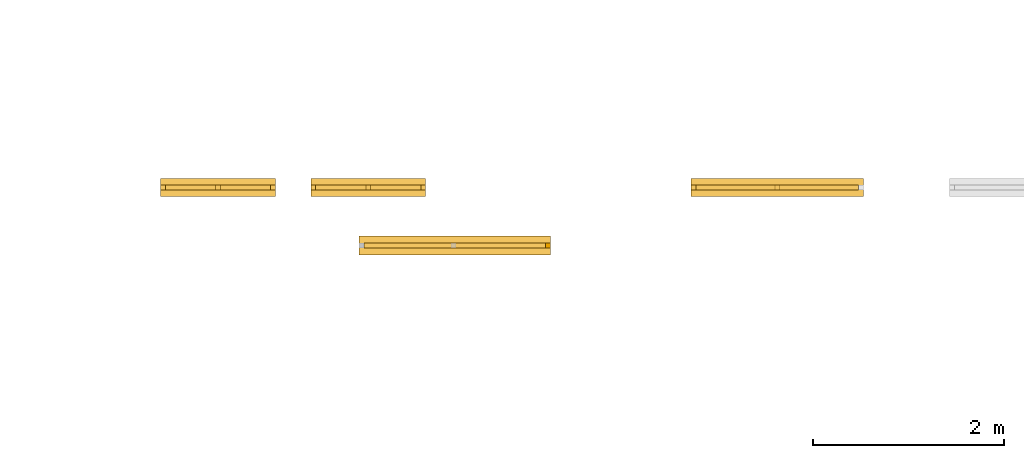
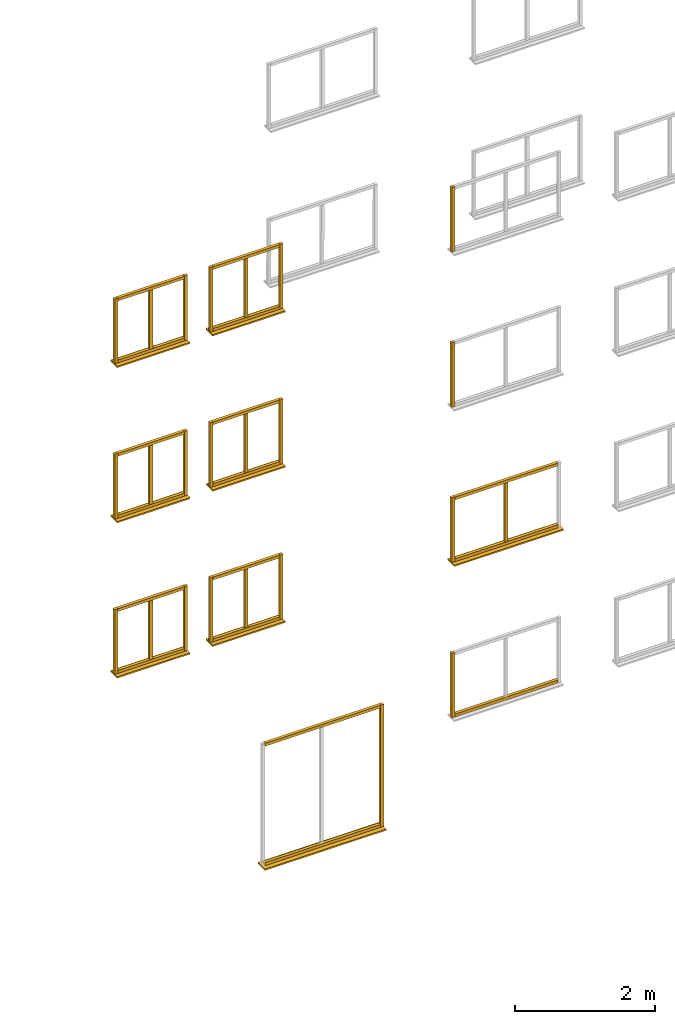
# Not in any storey, part 3 of 22: 49 windows.
"""IFC2X3 model written with IfcOpenShell, lengths in metres."""

from ifc_helpers import new_model, si_unit, frame, origin, place, context, project, faceted_brep, element, save


model = new_model("IFC2X3")

# Units and contexts
model_context = context("Model", 3, precision=1e-06, world=origin())
ifc_project = project(units=[si_unit("LENGTHUNIT", "METRE"), si_unit("PLANEANGLEUNIT", "RADIAN")], contexts=[model_context])

# Windows
placement = place(None, origin())
window_1_placement = place(placement, frame((15.019999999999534, -0.098337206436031, 3.775), z_axis=(0.0, 0.0, 1.0), x_axis=(1.0, 0.0, 0.0)))
element("IfcWindow", 1, at=window_1_placement, Name="verticalBar", context=model_context, shape_type="Brep", body=[
    faceted_brep([(0.0, 0.05, 0.0), (0.05, 0.05, 0.0), (0.05, 0.0, 0.0), (0.0, 0.0, 0.0), (0.05, 0.0, 1.025), (0.05, 0.05, 1.025), (0.0, 0.05, 1.025), (0.0, 0.0, 1.025), (0.0, 0.05, 0.0), (0.0, 0.0, 0.0), (0.0, 0.0, 1.025), (0.0, 0.05, 1.025), (0.05, 0.05, 0.0), (0.0, 0.05, 0.0), (0.0, 0.05, 1.025), (0.05, 0.05, 1.025), (0.05, 0.0, 0.0), (0.05, 0.05, 0.0), (0.05, 0.05, 1.025), (0.05, 0.0, 1.025), (0.0, 0.0, 0.0), (0.05, 0.0, 0.0), (0.05, 0.0, 1.025), (0.0, 0.0, 1.025)], [[[0, 1, 2, 3]], [[4, 5, 6, 7]], [[8, 9, 10, 11]], [[12, 13, 14, 15]], [[16, 17, 18, 19]], [[20, 21, 22, 23]]]),
])
window_2_placement = place(placement, frame((8.64999999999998, -0.098422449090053, 3.725000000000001), z_axis=(0.0, 0.0, 1.0), x_axis=(1.0, 0.0, 0.0)))
element("IfcWindow", 2, at=window_2_placement, Name="bottomFrame", context=model_context, shape_type="Brep", body=[
    faceted_brep([(0.0, 0.05, 0.0), (1.1, 0.05, 0.0), (1.1, 0.0, 0.0), (0.0, 0.0, 0.0), (1.1, 0.0, 0.05), (1.1, 0.05, 0.05), (0.0, 0.05, 0.05), (0.0, 0.0, 0.05), (0.0, 0.05, 0.0), (0.0, 0.0, 0.0), (0.0, 0.0, 0.05), (0.0, 0.05, 0.05), (1.1, 0.05, 0.0), (0.0, 0.05, 0.0), (0.0, 0.05, 0.05), (1.1, 0.05, 0.05), (1.1, 0.0, 0.0), (1.1, 0.05, 0.0), (1.1, 0.05, 0.05), (1.1, 0.0, 0.05), (0.0, 0.0, 0.0), (1.1, 0.0, 0.0), (1.1, 0.0, 0.05), (0.0, 0.0, 0.05)], [[[0, 1, 2, 3]], [[4, 5, 6, 7]], [[8, 9, 10, 11]], [[12, 13, 14, 15]], [[16, 17, 18, 19]], [[20, 21, 22, 23]]]),
])
window_3_placement = place(placement, frame((14.194999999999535, -0.098337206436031, 1.025), z_axis=(0.0, 0.0, 1.0), x_axis=(1.0, 0.0, 0.0)))
element("IfcWindow", 3, at=window_3_placement, Name="bottomFrame", context=model_context, shape_type="Brep", body=[
    faceted_brep([(0.0, 0.05, 0.0), (1.7, 0.05, 0.0), (1.7, 0.0, 0.0), (0.0, 0.0, 0.0), (1.7, 0.0, 0.05), (1.7, 0.05, 0.05), (0.0, 0.05, 0.05), (0.0, 0.0, 0.05), (0.0, 0.05, 0.0), (0.0, 0.0, 0.0), (0.0, 0.0, 0.05), (0.0, 0.05, 0.05), (1.7, 0.05, 0.0), (0.0, 0.05, 0.0), (0.0, 0.05, 0.05), (1.7, 0.05, 0.05), (1.7, 0.0, 0.0), (1.7, 0.05, 0.0), (1.7, 0.05, 0.05), (1.7, 0.0, 0.05), (0.0, 0.0, 0.0), (1.7, 0.0, 0.0), (1.7, 0.0, 0.05), (0.0, 0.0, 0.05)], [[[0, 1, 2, 3]], [[4, 5, 6, 7]], [[8, 9, 10, 11]], [[12, 13, 14, 15]], [[16, 17, 18, 19]], [[20, 21, 22, 23]]]),
])
window_4_placement = place(placement, frame((8.64999999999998, -0.098422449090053, 10.200000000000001), z_axis=(0.0, 0.0, 1.0), x_axis=(1.0, 0.0, 0.0)))
element("IfcWindow", 4, at=window_4_placement, Name="topFrame", context=model_context, shape_type="Brep", body=[
    faceted_brep([(0.0, 0.05, 0.0), (1.1, 0.05, 0.0), (1.1, 0.0, 0.0), (0.0, 0.0, 0.0), (1.1, 0.0, 0.05), (1.1, 0.05, 0.05), (0.0, 0.05, 0.05), (0.0, 0.0, 0.05), (0.0, 0.05, 0.0), (0.0, 0.0, 0.0), (0.0, 0.0, 0.05), (0.0, 0.05, 0.05), (1.1, 0.05, 0.0), (0.0, 0.05, 0.0), (0.0, 0.05, 0.05), (1.1, 0.05, 0.05), (1.1, 0.0, 0.0), (1.1, 0.05, 0.0), (1.1, 0.05, 0.05), (1.1, 0.0, 0.05), (0.0, 0.0, 0.0), (1.1, 0.0, 0.0), (1.1, 0.0, 0.05), (0.0, 0.0, 0.05)], [[[0, 1, 2, 3]], [[4, 5, 6, 7]], [[8, 9, 10, 11]], [[12, 13, 14, 15]], [[16, 17, 18, 19]], [[20, 21, 22, 23]]]),
])
window_5_placement = place(placement, frame((9.74999999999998, -0.098422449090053, 9.125000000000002), z_axis=(0.0, 0.0, 1.0), x_axis=(1.0, 0.0, 0.0)))
element("IfcWindow", 5, at=window_5_placement, Name="rightFrame", context=model_context, shape_type="Brep", body=[
    faceted_brep([(0.0, 0.05, 0.0), (0.05, 0.05, 0.0), (0.05, 0.0, 0.0), (0.0, 0.0, 0.0), (0.05, 0.0, 1.125), (0.05, 0.05, 1.125), (0.0, 0.05, 1.125), (0.0, 0.0, 1.125), (0.0, 0.05, 0.0), (0.0, 0.0, 0.0), (0.0, 0.0, 1.125), (0.0, 0.05, 1.125), (0.05, 0.05, 0.0), (0.0, 0.05, 0.0), (0.0, 0.05, 1.125), (0.05, 0.05, 1.125), (0.05, 0.0, 0.0), (0.05, 0.05, 0.0), (0.05, 0.05, 1.125), (0.05, 0.0, 1.125), (0.0, 0.0, 0.0), (0.05, 0.0, 0.0), (0.05, 0.0, 1.125), (0.0, 0.0, 1.125)], [[[0, 1, 2, 3]], [[4, 5, 6, 7]], [[8, 9, 10, 11]], [[12, 13, 14, 15]], [[16, 17, 18, 19]], [[20, 21, 22, 23]]]),
])
window_6_placement = place(placement, frame((9.17499999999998, -0.098422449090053, 9.175), z_axis=(0.0, 0.0, 1.0), x_axis=(1.0, 0.0, 0.0)))
element("IfcWindow", 6, at=window_6_placement, Name="verticalBar", context=model_context, shape_type="Brep", body=[
    faceted_brep([(0.0, 0.05, 0.0), (0.05, 0.05, 0.0), (0.05, 0.0, 0.0), (0.0, 0.0, 0.0), (0.05, 0.0, 1.025), (0.05, 0.05, 1.025), (0.0, 0.05, 1.025), (0.0, 0.0, 1.025), (0.0, 0.05, 0.0), (0.0, 0.0, 0.0), (0.0, 0.0, 1.025), (0.0, 0.05, 1.025), (0.05, 0.05, 0.0), (0.0, 0.05, 0.0), (0.0, 0.05, 1.025), (0.05, 0.05, 1.025), (0.05, 0.0, 0.0), (0.05, 0.05, 0.0), (0.05, 0.05, 1.025), (0.05, 0.0, 1.025), (0.0, 0.0, 0.0), (0.05, 0.0, 0.0), (0.05, 0.0, 1.025), (0.0, 0.0, 1.025)], [[[0, 1, 2, 3]], [[4, 5, 6, 7]], [[8, 9, 10, 11]], [[12, 13, 14, 15]], [[16, 17, 18, 19]], [[20, 21, 22, 23]]]),
])
window_7_placement = place(placement, frame((8.64999999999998, -0.098422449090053, 9.125000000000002), z_axis=(0.0, 0.0, 1.0), x_axis=(1.0, 0.0, 0.0)))
element("IfcWindow", 7, at=window_7_placement, Name="bottomFrame", context=model_context, shape_type="Brep", body=[
    faceted_brep([(0.0, 0.05, 0.0), (1.1, 0.05, 0.0), (1.1, 0.0, 0.0), (0.0, 0.0, 0.0), (1.1, 0.0, 0.05), (1.1, 0.05, 0.05), (0.0, 0.05, 0.05), (0.0, 0.0, 0.05), (0.0, 0.05, 0.0), (0.0, 0.0, 0.0), (0.0, 0.0, 0.05), (0.0, 0.05, 0.05), (1.1, 0.05, 0.0), (0.0, 0.05, 0.0), (0.0, 0.05, 0.05), (1.1, 0.05, 0.05), (1.1, 0.0, 0.0), (1.1, 0.05, 0.0), (1.1, 0.05, 0.05), (1.1, 0.0, 0.05), (0.0, 0.0, 0.0), (1.1, 0.0, 0.0), (1.1, 0.0, 0.05), (0.0, 0.0, 0.05)], [[[0, 1, 2, 3]], [[4, 5, 6, 7]], [[8, 9, 10, 11]], [[12, 13, 14, 15]], [[16, 17, 18, 19]], [[20, 21, 22, 23]]]),
])
window_8_placement = place(placement, frame((8.59999999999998, -0.166922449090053, 9.100000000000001), z_axis=(0.0, 0.0, 1.0), x_axis=(1.0, 0.0, 0.0)))
element("IfcWindow", 8, at=window_8_placement, Name="windowSill", context=model_context, shape_type="Brep", body=[
    faceted_brep([(0.0, 0.187, 0.0), (1.2, 0.187, 0.0), (1.2, 0.0, 0.0), (0.0, 0.0, 0.0), (1.2, 0.0, 0.025), (1.2, 0.187, 0.025), (0.0, 0.187, 0.025), (0.0, 0.0, 0.025), (0.0, 0.187, 0.0), (0.0, 0.0, 0.0), (0.0, 0.0, 0.025), (0.0, 0.187, 0.025), (1.2, 0.187, 0.0), (0.0, 0.187, 0.0), (0.0, 0.187, 0.025), (1.2, 0.187, 0.025), (1.2, 0.0, 0.0), (1.2, 0.187, 0.0), (1.2, 0.187, 0.025), (1.2, 0.0, 0.025), (0.0, 0.0, 0.0), (1.2, 0.0, 0.0), (1.2, 0.0, 0.025), (0.0, 0.0, 0.025)], [[[0, 1, 2, 3]], [[4, 5, 6, 7]], [[8, 9, 10, 11]], [[12, 13, 14, 15]], [[16, 17, 18, 19]], [[20, 21, 22, 23]]]),
])
for number, where, z_axis, x_axis, name in (
    (9, (8.59999999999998, -0.098422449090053, 9.125000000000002), (0.0, 0.0, 1.0), (1.0, 0.0, 0.0), "leftFrame"),
    (10, (10.169999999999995, -0.098422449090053, 9.125000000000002), (0.0, 0.0, 1.0), (1.0, 0.0, 0.0), "leftFrame"),
):
    element("IfcWindow", number, at=place(placement, frame(where, z_axis=z_axis, x_axis=x_axis)), Name=name, context=model_context, shape_type="Brep", body=[
        faceted_brep([(0.0, 0.05, 0.0), (0.05, 0.05, 0.0), (0.05, 0.0, 0.0), (0.0, 0.0, 0.0), (0.05, 0.0, 1.125), (0.05, 0.05, 1.125), (0.0, 0.05, 1.125), (0.0, 0.0, 1.125), (0.0, 0.05, 0.0), (0.0, 0.0, 0.0), (0.0, 0.0, 1.125), (0.0, 0.05, 1.125), (0.05, 0.05, 0.0), (0.0, 0.05, 0.0), (0.0, 0.05, 1.125), (0.05, 0.05, 1.125), (0.05, 0.0, 0.0), (0.05, 0.05, 0.0), (0.05, 0.05, 1.125), (0.05, 0.0, 1.125), (0.0, 0.0, 0.0), (0.05, 0.0, 0.0), (0.05, 0.0, 1.125), (0.0, 0.0, 1.125)], [[[0, 1, 2, 3]], [[4, 5, 6, 7]], [[8, 9, 10, 11]], [[12, 13, 14, 15]], [[16, 17, 18, 19]], [[20, 21, 22, 23]]]),
    ])
window_9_placement = place(placement, frame((10.744999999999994, -0.098422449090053, 9.175), z_axis=(0.0, 0.0, 1.0), x_axis=(1.0, 0.0, 0.0)))
element("IfcWindow", 11, at=window_9_placement, Name="verticalBar", context=model_context, shape_type="Brep", body=[
    faceted_brep([(0.0, 0.05, 0.0), (0.05, 0.05, 0.0), (0.05, 0.0, 0.0), (0.0, 0.0, 0.0), (0.05, 0.0, 1.025), (0.05, 0.05, 1.025), (0.0, 0.05, 1.025), (0.0, 0.0, 1.025), (0.0, 0.05, 0.0), (0.0, 0.0, 0.0), (0.0, 0.0, 1.025), (0.0, 0.05, 1.025), (0.05, 0.05, 0.0), (0.0, 0.05, 0.0), (0.0, 0.05, 1.025), (0.05, 0.05, 1.025), (0.05, 0.0, 0.0), (0.05, 0.05, 0.0), (0.05, 0.05, 1.025), (0.05, 0.0, 1.025), (0.0, 0.0, 0.0), (0.05, 0.0, 0.0), (0.05, 0.0, 1.025), (0.0, 0.0, 1.025)], [[[0, 1, 2, 3]], [[4, 5, 6, 7]], [[8, 9, 10, 11]], [[12, 13, 14, 15]], [[16, 17, 18, 19]], [[20, 21, 22, 23]]]),
])
window_10_placement = place(placement, frame((10.169999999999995, -0.166922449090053, 9.100000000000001), z_axis=(0.0, 0.0, 1.0), x_axis=(1.0, 0.0, 0.0)))
element("IfcWindow", 12, at=window_10_placement, Name="windowSill", context=model_context, shape_type="Brep", body=[
    faceted_brep([(0.0, 0.187, 0.0), (1.2, 0.187, 0.0), (1.2, 0.0, 0.0), (0.0, 0.0, 0.0), (1.2, 0.0, 0.025), (1.2, 0.187, 0.025), (0.0, 0.187, 0.025), (0.0, 0.0, 0.025), (0.0, 0.187, 0.0), (0.0, 0.0, 0.0), (0.0, 0.0, 0.025), (0.0, 0.187, 0.025), (1.2, 0.187, 0.0), (0.0, 0.187, 0.0), (0.0, 0.187, 0.025), (1.2, 0.187, 0.025), (1.2, 0.0, 0.0), (1.2, 0.187, 0.0), (1.2, 0.187, 0.025), (1.2, 0.0, 0.025), (0.0, 0.0, 0.0), (1.2, 0.0, 0.0), (1.2, 0.0, 0.025), (0.0, 0.0, 0.025)], [[[0, 1, 2, 3]], [[4, 5, 6, 7]], [[8, 9, 10, 11]], [[12, 13, 14, 15]], [[16, 17, 18, 19]], [[20, 21, 22, 23]]]),
])
window_11_placement = place(placement, frame((11.319999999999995, -0.098422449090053, 9.125000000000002), z_axis=(0.0, 0.0, 1.0), x_axis=(1.0, 0.0, 0.0)))
element("IfcWindow", 13, at=window_11_placement, Name="rightFrame", context=model_context, shape_type="Brep", body=[
    faceted_brep([(0.0, 0.05, 0.0), (0.05, 0.05, 0.0), (0.05, 0.0, 0.0), (0.0, 0.0, 0.0), (0.05, 0.0, 1.125), (0.05, 0.05, 1.125), (0.0, 0.05, 1.125), (0.0, 0.0, 1.125), (0.0, 0.05, 0.0), (0.0, 0.0, 0.0), (0.0, 0.0, 1.125), (0.0, 0.05, 1.125), (0.05, 0.05, 0.0), (0.0, 0.05, 0.0), (0.0, 0.05, 1.125), (0.05, 0.05, 1.125), (0.05, 0.0, 0.0), (0.05, 0.05, 0.0), (0.05, 0.05, 1.125), (0.05, 0.0, 1.125), (0.0, 0.0, 0.0), (0.05, 0.0, 0.0), (0.05, 0.0, 1.125), (0.0, 0.0, 1.125)], [[[0, 1, 2, 3]], [[4, 5, 6, 7]], [[8, 9, 10, 11]], [[12, 13, 14, 15]], [[16, 17, 18, 19]], [[20, 21, 22, 23]]]),
])
for number, where, z_axis, x_axis, name in (
    (14, (10.219999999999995, -0.098422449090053, 9.125000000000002), (0.0, 0.0, 1.0), (1.0, 0.0, 0.0), "bottomFrame"),
    (15, (10.219999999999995, -0.098422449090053, 6.425000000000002), (0.0, 0.0, 1.0), (1.0, 0.0, 0.0), "bottomFrame"),
    (16, (10.219999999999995, -0.098422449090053, 7.500000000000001), (0.0, 0.0, 1.0), (1.0, 0.0, 0.0), "topFrame"),
):
    element("IfcWindow", number, at=place(placement, frame(where, z_axis=z_axis, x_axis=x_axis)), Name=name, context=model_context, shape_type="Brep", body=[
        faceted_brep([(0.0, 0.05, 0.0), (1.1, 0.05, 0.0), (1.1, 0.0, 0.0), (0.0, 0.0, 0.0), (1.1, 0.0, 0.05), (1.1, 0.05, 0.05), (0.0, 0.05, 0.05), (0.0, 0.0, 0.05), (0.0, 0.05, 0.0), (0.0, 0.0, 0.0), (0.0, 0.0, 0.05), (0.0, 0.05, 0.05), (1.1, 0.05, 0.0), (0.0, 0.05, 0.0), (0.0, 0.05, 0.05), (1.1, 0.05, 0.05), (1.1, 0.0, 0.0), (1.1, 0.05, 0.0), (1.1, 0.05, 0.05), (1.1, 0.0, 0.05), (0.0, 0.0, 0.0), (1.1, 0.0, 0.0), (1.1, 0.0, 0.05), (0.0, 0.0, 0.05)], [[[0, 1, 2, 3]], [[4, 5, 6, 7]], [[8, 9, 10, 11]], [[12, 13, 14, 15]], [[16, 17, 18, 19]], [[20, 21, 22, 23]]]),
    ])
window_12_placement = place(placement, frame((11.319999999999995, -0.098422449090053, 6.425000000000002), z_axis=(0.0, 0.0, 1.0), x_axis=(1.0, 0.0, 0.0)))
element("IfcWindow", 17, at=window_12_placement, Name="rightFrame", context=model_context, shape_type="Brep", body=[
    faceted_brep([(0.0, 0.05, 0.0), (0.05, 0.05, 0.0), (0.05, 0.0, 0.0), (0.0, 0.0, 0.0), (0.05, 0.0, 1.125), (0.05, 0.05, 1.125), (0.0, 0.05, 1.125), (0.0, 0.0, 1.125), (0.0, 0.05, 0.0), (0.0, 0.0, 0.0), (0.0, 0.0, 1.125), (0.0, 0.05, 1.125), (0.05, 0.05, 0.0), (0.0, 0.05, 0.0), (0.0, 0.05, 1.125), (0.05, 0.05, 1.125), (0.05, 0.0, 0.0), (0.05, 0.05, 0.0), (0.05, 0.05, 1.125), (0.05, 0.0, 1.125), (0.0, 0.0, 0.0), (0.05, 0.0, 0.0), (0.05, 0.0, 1.125), (0.0, 0.0, 1.125)], [[[0, 1, 2, 3]], [[4, 5, 6, 7]], [[8, 9, 10, 11]], [[12, 13, 14, 15]], [[16, 17, 18, 19]], [[20, 21, 22, 23]]]),
])
window_13_placement = place(placement, frame((10.169999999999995, -0.166922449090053, 6.400000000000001), z_axis=(0.0, 0.0, 1.0), x_axis=(1.0, 0.0, 0.0)))
element("IfcWindow", 18, at=window_13_placement, Name="windowSill", context=model_context, shape_type="Brep", body=[
    faceted_brep([(0.0, 0.187, 0.0), (1.2, 0.187, 0.0), (1.2, 0.0, 0.0), (0.0, 0.0, 0.0), (1.2, 0.0, 0.025), (1.2, 0.187, 0.025), (0.0, 0.187, 0.025), (0.0, 0.0, 0.025), (0.0, 0.187, 0.0), (0.0, 0.0, 0.0), (0.0, 0.0, 0.025), (0.0, 0.187, 0.025), (1.2, 0.187, 0.0), (0.0, 0.187, 0.0), (0.0, 0.187, 0.025), (1.2, 0.187, 0.025), (1.2, 0.0, 0.0), (1.2, 0.187, 0.0), (1.2, 0.187, 0.025), (1.2, 0.0, 0.025), (0.0, 0.0, 0.0), (1.2, 0.0, 0.0), (1.2, 0.0, 0.025), (0.0, 0.0, 0.025)], [[[0, 1, 2, 3]], [[4, 5, 6, 7]], [[8, 9, 10, 11]], [[12, 13, 14, 15]], [[16, 17, 18, 19]], [[20, 21, 22, 23]]]),
])
window_14_placement = place(placement, frame((10.744999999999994, -0.098422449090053, 6.475000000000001), z_axis=(0.0, 0.0, 1.0), x_axis=(1.0, 0.0, 0.0)))
element("IfcWindow", 19, at=window_14_placement, Name="verticalBar", context=model_context, shape_type="Brep", body=[
    faceted_brep([(0.0, 0.05, 0.0), (0.05, 0.05, 0.0), (0.05, 0.0, 0.0), (0.0, 0.0, 0.0), (0.05, 0.0, 1.025), (0.05, 0.05, 1.025), (0.0, 0.05, 1.025), (0.0, 0.0, 1.025), (0.0, 0.05, 0.0), (0.0, 0.0, 0.0), (0.0, 0.0, 1.025), (0.0, 0.05, 1.025), (0.05, 0.05, 0.0), (0.0, 0.05, 0.0), (0.0, 0.05, 1.025), (0.05, 0.05, 1.025), (0.05, 0.0, 0.0), (0.05, 0.05, 0.0), (0.05, 0.05, 1.025), (0.05, 0.0, 1.025), (0.0, 0.0, 0.0), (0.05, 0.0, 0.0), (0.05, 0.0, 1.025), (0.0, 0.0, 1.025)], [[[0, 1, 2, 3]], [[4, 5, 6, 7]], [[8, 9, 10, 11]], [[12, 13, 14, 15]], [[16, 17, 18, 19]], [[20, 21, 22, 23]]]),
])
for number, where, z_axis, x_axis, name in (
    (20, (10.169999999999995, -0.098422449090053, 6.425000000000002), (0.0, 0.0, 1.0), (1.0, 0.0, 0.0), "leftFrame"),
    (21, (8.59999999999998, -0.098422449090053, 6.425000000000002), (0.0, 0.0, 1.0), (1.0, 0.0, 0.0), "leftFrame"),
):
    element("IfcWindow", number, at=place(placement, frame(where, z_axis=z_axis, x_axis=x_axis)), Name=name, context=model_context, shape_type="Brep", body=[
        faceted_brep([(0.0, 0.05, 0.0), (0.05, 0.05, 0.0), (0.05, 0.0, 0.0), (0.0, 0.0, 0.0), (0.05, 0.0, 1.125), (0.05, 0.05, 1.125), (0.0, 0.05, 1.125), (0.0, 0.0, 1.125), (0.0, 0.05, 0.0), (0.0, 0.0, 0.0), (0.0, 0.0, 1.125), (0.0, 0.05, 1.125), (0.05, 0.05, 0.0), (0.0, 0.05, 0.0), (0.0, 0.05, 1.125), (0.05, 0.05, 1.125), (0.05, 0.0, 0.0), (0.05, 0.05, 0.0), (0.05, 0.05, 1.125), (0.05, 0.0, 1.125), (0.0, 0.0, 0.0), (0.05, 0.0, 0.0), (0.05, 0.0, 1.125), (0.0, 0.0, 1.125)], [[[0, 1, 2, 3]], [[4, 5, 6, 7]], [[8, 9, 10, 11]], [[12, 13, 14, 15]], [[16, 17, 18, 19]], [[20, 21, 22, 23]]]),
    ])
window_15_placement = place(placement, frame((8.59999999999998, -0.166922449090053, 6.400000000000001), z_axis=(0.0, 0.0, 1.0), x_axis=(1.0, 0.0, 0.0)))
element("IfcWindow", 22, at=window_15_placement, Name="windowSill", context=model_context, shape_type="Brep", body=[
    faceted_brep([(0.0, 0.187, 0.0), (1.2, 0.187, 0.0), (1.2, 0.0, 0.0), (0.0, 0.0, 0.0), (1.2, 0.0, 0.025), (1.2, 0.187, 0.025), (0.0, 0.187, 0.025), (0.0, 0.0, 0.025), (0.0, 0.187, 0.0), (0.0, 0.0, 0.0), (0.0, 0.0, 0.025), (0.0, 0.187, 0.025), (1.2, 0.187, 0.0), (0.0, 0.187, 0.0), (0.0, 0.187, 0.025), (1.2, 0.187, 0.025), (1.2, 0.0, 0.0), (1.2, 0.187, 0.0), (1.2, 0.187, 0.025), (1.2, 0.0, 0.025), (0.0, 0.0, 0.0), (1.2, 0.0, 0.0), (1.2, 0.0, 0.025), (0.0, 0.0, 0.025)], [[[0, 1, 2, 3]], [[4, 5, 6, 7]], [[8, 9, 10, 11]], [[12, 13, 14, 15]], [[16, 17, 18, 19]], [[20, 21, 22, 23]]]),
])
window_16_placement = place(placement, frame((8.64999999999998, -0.098422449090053, 6.425000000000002), z_axis=(0.0, 0.0, 1.0), x_axis=(1.0, 0.0, 0.0)))
element("IfcWindow", 23, at=window_16_placement, Name="bottomFrame", context=model_context, shape_type="Brep", body=[
    faceted_brep([(0.0, 0.05, 0.0), (1.1, 0.05, 0.0), (1.1, 0.0, 0.0), (0.0, 0.0, 0.0), (1.1, 0.0, 0.05), (1.1, 0.05, 0.05), (0.0, 0.05, 0.05), (0.0, 0.0, 0.05), (0.0, 0.05, 0.0), (0.0, 0.0, 0.0), (0.0, 0.0, 0.05), (0.0, 0.05, 0.05), (1.1, 0.05, 0.0), (0.0, 0.05, 0.0), (0.0, 0.05, 0.05), (1.1, 0.05, 0.05), (1.1, 0.0, 0.0), (1.1, 0.05, 0.0), (1.1, 0.05, 0.05), (1.1, 0.0, 0.05), (0.0, 0.0, 0.0), (1.1, 0.0, 0.0), (1.1, 0.0, 0.05), (0.0, 0.0, 0.05)], [[[0, 1, 2, 3]], [[4, 5, 6, 7]], [[8, 9, 10, 11]], [[12, 13, 14, 15]], [[16, 17, 18, 19]], [[20, 21, 22, 23]]]),
])
window_17_placement = place(placement, frame((9.17499999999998, -0.098422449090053, 6.475000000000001), z_axis=(0.0, 0.0, 1.0), x_axis=(1.0, 0.0, 0.0)))
element("IfcWindow", 24, at=window_17_placement, Name="verticalBar", context=model_context, shape_type="Brep", body=[
    faceted_brep([(0.0, 0.05, 0.0), (0.05, 0.05, 0.0), (0.05, 0.0, 0.0), (0.0, 0.0, 0.0), (0.05, 0.0, 1.025), (0.05, 0.05, 1.025), (0.0, 0.05, 1.025), (0.0, 0.0, 1.025), (0.0, 0.05, 0.0), (0.0, 0.0, 0.0), (0.0, 0.0, 1.025), (0.0, 0.05, 1.025), (0.05, 0.05, 0.0), (0.0, 0.05, 0.0), (0.0, 0.05, 1.025), (0.05, 0.05, 1.025), (0.05, 0.0, 0.0), (0.05, 0.05, 0.0), (0.05, 0.05, 1.025), (0.05, 0.0, 1.025), (0.0, 0.0, 0.0), (0.05, 0.0, 0.0), (0.05, 0.0, 1.025), (0.0, 0.0, 1.025)], [[[0, 1, 2, 3]], [[4, 5, 6, 7]], [[8, 9, 10, 11]], [[12, 13, 14, 15]], [[16, 17, 18, 19]], [[20, 21, 22, 23]]]),
])
window_18_placement = place(placement, frame((9.74999999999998, -0.098422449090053, 6.425000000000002), z_axis=(0.0, 0.0, 1.0), x_axis=(1.0, 0.0, 0.0)))
element("IfcWindow", 25, at=window_18_placement, Name="rightFrame", context=model_context, shape_type="Brep", body=[
    faceted_brep([(0.0, 0.05, 0.0), (0.05, 0.05, 0.0), (0.05, 0.0, 0.0), (0.0, 0.0, 0.0), (0.05, 0.0, 1.125), (0.05, 0.05, 1.125), (0.0, 0.05, 1.125), (0.0, 0.0, 1.125), (0.0, 0.05, 0.0), (0.0, 0.0, 0.0), (0.0, 0.0, 1.125), (0.0, 0.05, 1.125), (0.05, 0.05, 0.0), (0.0, 0.05, 0.0), (0.0, 0.05, 1.125), (0.05, 0.05, 1.125), (0.05, 0.0, 0.0), (0.05, 0.05, 0.0), (0.05, 0.05, 1.125), (0.05, 0.0, 1.125), (0.0, 0.0, 0.0), (0.05, 0.0, 0.0), (0.05, 0.0, 1.125), (0.0, 0.0, 1.125)], [[[0, 1, 2, 3]], [[4, 5, 6, 7]], [[8, 9, 10, 11]], [[12, 13, 14, 15]], [[16, 17, 18, 19]], [[20, 21, 22, 23]]]),
])
window_19_placement = place(placement, frame((12.624999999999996, -0.70492223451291, 0.025), z_axis=(0.0, 0.0, 1.0), x_axis=(1.0, 0.0, 0.0)))
element("IfcWindow", 26, at=window_19_placement, Name="rightFrame", context=model_context, shape_type="Brep", body=[
    faceted_brep([(0.0, 0.05, 0.0), (0.05, 0.05, 0.0), (0.05, 0.0, 0.0), (0.0, 0.0, 0.0), (0.05, 0.0, 2.125), (0.05, 0.05, 2.125), (0.0, 0.05, 2.125), (0.0, 0.0, 2.125), (0.0, 0.05, 0.0), (0.0, 0.0, 0.0), (0.0, 0.0, 2.125), (0.0, 0.05, 2.125), (0.05, 0.05, 0.0), (0.0, 0.05, 0.0), (0.0, 0.05, 2.125), (0.05, 0.05, 2.125), (0.05, 0.0, 0.0), (0.05, 0.05, 0.0), (0.05, 0.05, 2.125), (0.05, 0.0, 2.125), (0.0, 0.0, 0.0), (0.05, 0.0, 0.0), (0.05, 0.0, 2.125), (0.0, 0.0, 2.125)], [[[0, 1, 2, 3]], [[4, 5, 6, 7]], [[8, 9, 10, 11]], [[12, 13, 14, 15]], [[16, 17, 18, 19]], [[20, 21, 22, 23]]]),
])
window_20_placement = place(placement, frame((10.724999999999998, -0.70492223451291, 2.1), z_axis=(0.0, 0.0, 1.0), x_axis=(1.0, 0.0, 0.0)))
element("IfcWindow", 27, at=window_20_placement, Name="topFrame", context=model_context, shape_type="Brep", body=[
    faceted_brep([(0.0, 0.05, 0.0), (1.9, 0.05, 0.0), (1.9, 0.0, 0.0), (0.0, 0.0, 0.0), (1.9, 0.0, 0.05), (1.9, 0.05, 0.05), (0.0, 0.05, 0.05), (0.0, 0.0, 0.05), (0.0, 0.05, 0.0), (0.0, 0.0, 0.0), (0.0, 0.0, 0.05), (0.0, 0.05, 0.05), (1.9, 0.05, 0.0), (0.0, 0.05, 0.0), (0.0, 0.05, 0.05), (1.9, 0.05, 0.05), (1.9, 0.0, 0.0), (1.9, 0.05, 0.0), (1.9, 0.05, 0.05), (1.9, 0.0, 0.05), (0.0, 0.0, 0.0), (1.9, 0.0, 0.0), (1.9, 0.0, 0.05), (0.0, 0.0, 0.05)], [[[0, 1, 2, 3]], [[4, 5, 6, 7]], [[8, 9, 10, 11]], [[12, 13, 14, 15]], [[16, 17, 18, 19]], [[20, 21, 22, 23]]]),
])
window_21_placement = place(placement, frame((10.674999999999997, -0.77992223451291, 0.0), z_axis=(0.0, 0.0, 1.0), x_axis=(1.0, 0.0, 0.0)))
element("IfcWindow", 28, at=window_21_placement, Name="windowSill", context=model_context, shape_type="Brep", body=[
    faceted_brep([(0.0, 0.2, 0.0), (2.0, 0.2, 0.0), (2.0, 0.0, 0.0), (0.0, 0.0, 0.0), (2.0, 0.0, 0.025), (2.0, 0.2, 0.025), (0.0, 0.2, 0.025), (0.0, 0.0, 0.025), (0.0, 0.2, 0.0), (0.0, 0.0, 0.0), (0.0, 0.0, 0.025), (0.0, 0.2, 0.025), (2.0, 0.2, 0.0), (0.0, 0.2, 0.0), (0.0, 0.2, 0.025), (2.0, 0.2, 0.025), (2.0, 0.0, 0.0), (2.0, 0.2, 0.0), (2.0, 0.2, 0.025), (2.0, 0.0, 0.025), (0.0, 0.0, 0.0), (2.0, 0.0, 0.0), (2.0, 0.0, 0.025), (0.0, 0.0, 0.025)], [[[0, 1, 2, 3]], [[4, 5, 6, 7]], [[8, 9, 10, 11]], [[12, 13, 14, 15]], [[16, 17, 18, 19]], [[20, 21, 22, 23]]]),
])
window_22_placement = place(placement, frame((10.724999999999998, -0.70492223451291, 0.025), z_axis=(0.0, 0.0, 1.0), x_axis=(1.0, 0.0, 0.0)))
element("IfcWindow", 29, at=window_22_placement, Name="bottomFrame", context=model_context, shape_type="Brep", body=[
    faceted_brep([(0.0, 0.05, 0.0), (1.9, 0.05, 0.0), (1.9, 0.0, 0.0), (0.0, 0.0, 0.0), (1.9, 0.0, 0.05), (1.9, 0.05, 0.05), (0.0, 0.05, 0.05), (0.0, 0.0, 0.05), (0.0, 0.05, 0.0), (0.0, 0.0, 0.0), (0.0, 0.0, 0.05), (0.0, 0.05, 0.05), (1.9, 0.05, 0.0), (0.0, 0.05, 0.0), (0.0, 0.05, 0.05), (1.9, 0.05, 0.05), (1.9, 0.0, 0.0), (1.9, 0.05, 0.0), (1.9, 0.05, 0.05), (1.9, 0.0, 0.05), (0.0, 0.0, 0.0), (1.9, 0.0, 0.0), (1.9, 0.0, 0.05), (0.0, 0.0, 0.05)], [[[0, 1, 2, 3]], [[4, 5, 6, 7]], [[8, 9, 10, 11]], [[12, 13, 14, 15]], [[16, 17, 18, 19]], [[20, 21, 22, 23]]]),
])
window_23_placement = place(placement, frame((10.169999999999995, -0.098422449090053, 3.725000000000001), z_axis=(0.0, 0.0, 1.0), x_axis=(1.0, 0.0, 0.0)))
element("IfcWindow", 30, at=window_23_placement, Name="leftFrame", context=model_context, shape_type="Brep", body=[
    faceted_brep([(0.0, 0.05, 0.0), (0.05, 0.05, 0.0), (0.05, 0.0, 0.0), (0.0, 0.0, 0.0), (0.05, 0.0, 1.125), (0.05, 0.05, 1.125), (0.0, 0.05, 1.125), (0.0, 0.0, 1.125), (0.0, 0.05, 0.0), (0.0, 0.0, 0.0), (0.0, 0.0, 1.125), (0.0, 0.05, 1.125), (0.05, 0.05, 0.0), (0.0, 0.05, 0.0), (0.0, 0.05, 1.125), (0.05, 0.05, 1.125), (0.05, 0.0, 0.0), (0.05, 0.05, 0.0), (0.05, 0.05, 1.125), (0.05, 0.0, 1.125), (0.0, 0.0, 0.0), (0.05, 0.0, 0.0), (0.05, 0.0, 1.125), (0.0, 0.0, 1.125)], [[[0, 1, 2, 3]], [[4, 5, 6, 7]], [[8, 9, 10, 11]], [[12, 13, 14, 15]], [[16, 17, 18, 19]], [[20, 21, 22, 23]]]),
])
window_24_placement = place(placement, frame((10.169999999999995, -0.166922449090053, 3.700000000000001), z_axis=(0.0, 0.0, 1.0), x_axis=(1.0, 0.0, 0.0)))
element("IfcWindow", 31, at=window_24_placement, Name="windowSill", context=model_context, shape_type="Brep", body=[
    faceted_brep([(0.0, 0.187, 0.0), (1.2, 0.187, 0.0), (1.2, 0.0, 0.0), (0.0, 0.0, 0.0), (1.2, 0.0, 0.025), (1.2, 0.187, 0.025), (0.0, 0.187, 0.025), (0.0, 0.0, 0.025), (0.0, 0.187, 0.0), (0.0, 0.0, 0.0), (0.0, 0.0, 0.025), (0.0, 0.187, 0.025), (1.2, 0.187, 0.0), (0.0, 0.187, 0.0), (0.0, 0.187, 0.025), (1.2, 0.187, 0.025), (1.2, 0.0, 0.0), (1.2, 0.187, 0.0), (1.2, 0.187, 0.025), (1.2, 0.0, 0.025), (0.0, 0.0, 0.0), (1.2, 0.0, 0.0), (1.2, 0.0, 0.025), (0.0, 0.0, 0.025)], [[[0, 1, 2, 3]], [[4, 5, 6, 7]], [[8, 9, 10, 11]], [[12, 13, 14, 15]], [[16, 17, 18, 19]], [[20, 21, 22, 23]]]),
])
window_25_placement = place(placement, frame((10.744999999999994, -0.098422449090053, 3.775000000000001), z_axis=(0.0, 0.0, 1.0), x_axis=(1.0, 0.0, 0.0)))
element("IfcWindow", 32, at=window_25_placement, Name="verticalBar", context=model_context, shape_type="Brep", body=[
    faceted_brep([(0.0, 0.05, 0.0), (0.05, 0.05, 0.0), (0.05, 0.0, 0.0), (0.0, 0.0, 0.0), (0.05, 0.0, 1.025), (0.05, 0.05, 1.025), (0.0, 0.05, 1.025), (0.0, 0.0, 1.025), (0.0, 0.05, 0.0), (0.0, 0.0, 0.0), (0.0, 0.0, 1.025), (0.0, 0.05, 1.025), (0.05, 0.05, 0.0), (0.0, 0.05, 0.0), (0.0, 0.05, 1.025), (0.05, 0.05, 1.025), (0.05, 0.0, 0.0), (0.05, 0.05, 0.0), (0.05, 0.05, 1.025), (0.05, 0.0, 1.025), (0.0, 0.0, 0.0), (0.05, 0.0, 0.0), (0.05, 0.0, 1.025), (0.0, 0.0, 1.025)], [[[0, 1, 2, 3]], [[4, 5, 6, 7]], [[8, 9, 10, 11]], [[12, 13, 14, 15]], [[16, 17, 18, 19]], [[20, 21, 22, 23]]]),
])
window_26_placement = place(placement, frame((11.319999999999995, -0.098422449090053, 3.725000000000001), z_axis=(0.0, 0.0, 1.0), x_axis=(1.0, 0.0, 0.0)))
element("IfcWindow", 33, at=window_26_placement, Name="rightFrame", context=model_context, shape_type="Brep", body=[
    faceted_brep([(0.0, 0.05, 0.0), (0.05, 0.05, 0.0), (0.05, 0.0, 0.0), (0.0, 0.0, 0.0), (0.05, 0.0, 1.125), (0.05, 0.05, 1.125), (0.0, 0.05, 1.125), (0.0, 0.0, 1.125), (0.0, 0.05, 0.0), (0.0, 0.0, 0.0), (0.0, 0.0, 1.125), (0.0, 0.05, 1.125), (0.05, 0.05, 0.0), (0.0, 0.05, 0.0), (0.0, 0.05, 1.125), (0.05, 0.05, 1.125), (0.05, 0.0, 0.0), (0.05, 0.05, 0.0), (0.05, 0.05, 1.125), (0.05, 0.0, 1.125), (0.0, 0.0, 0.0), (0.05, 0.0, 0.0), (0.05, 0.0, 1.125), (0.0, 0.0, 1.125)], [[[0, 1, 2, 3]], [[4, 5, 6, 7]], [[8, 9, 10, 11]], [[12, 13, 14, 15]], [[16, 17, 18, 19]], [[20, 21, 22, 23]]]),
])
for number, where, z_axis, x_axis, name in (
    (34, (10.219999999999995, -0.098422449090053, 4.800000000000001), (0.0, 0.0, 1.0), (1.0, 0.0, 0.0), "topFrame"),
    (35, (8.64999999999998, -0.098422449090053, 7.500000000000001), (0.0, 0.0, 1.0), (1.0, 0.0, 0.0), "topFrame"),
    (36, (10.219999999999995, -0.098422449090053, 3.725000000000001), (0.0, 0.0, 1.0), (1.0, 0.0, 0.0), "bottomFrame"),
    (37, (8.64999999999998, -0.098422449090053, 4.800000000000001), (0.0, 0.0, 1.0), (1.0, 0.0, 0.0), "topFrame"),
):
    element("IfcWindow", number, at=place(placement, frame(where, z_axis=z_axis, x_axis=x_axis)), Name=name, context=model_context, shape_type="Brep", body=[
        faceted_brep([(0.0, 0.05, 0.0), (1.1, 0.05, 0.0), (1.1, 0.0, 0.0), (0.0, 0.0, 0.0), (1.1, 0.0, 0.05), (1.1, 0.05, 0.05), (0.0, 0.05, 0.05), (0.0, 0.0, 0.05), (0.0, 0.05, 0.0), (0.0, 0.0, 0.0), (0.0, 0.0, 0.05), (0.0, 0.05, 0.05), (1.1, 0.05, 0.0), (0.0, 0.05, 0.0), (0.0, 0.05, 0.05), (1.1, 0.05, 0.05), (1.1, 0.0, 0.0), (1.1, 0.05, 0.0), (1.1, 0.05, 0.05), (1.1, 0.0, 0.05), (0.0, 0.0, 0.0), (1.1, 0.0, 0.0), (1.1, 0.0, 0.05), (0.0, 0.0, 0.05)], [[[0, 1, 2, 3]], [[4, 5, 6, 7]], [[8, 9, 10, 11]], [[12, 13, 14, 15]], [[16, 17, 18, 19]], [[20, 21, 22, 23]]]),
    ])
window_27_placement = place(placement, frame((9.74999999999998, -0.098422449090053, 3.725000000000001), z_axis=(0.0, 0.0, 1.0), x_axis=(1.0, 0.0, 0.0)))
element("IfcWindow", 38, at=window_27_placement, Name="rightFrame", context=model_context, shape_type="Brep", body=[
    faceted_brep([(0.0, 0.05, 0.0), (0.05, 0.05, 0.0), (0.05, 0.0, 0.0), (0.0, 0.0, 0.0), (0.05, 0.0, 1.125), (0.05, 0.05, 1.125), (0.0, 0.05, 1.125), (0.0, 0.0, 1.125), (0.0, 0.05, 0.0), (0.0, 0.0, 0.0), (0.0, 0.0, 1.125), (0.0, 0.05, 1.125), (0.05, 0.05, 0.0), (0.0, 0.05, 0.0), (0.0, 0.05, 1.125), (0.05, 0.05, 1.125), (0.05, 0.0, 0.0), (0.05, 0.05, 0.0), (0.05, 0.05, 1.125), (0.05, 0.0, 1.125), (0.0, 0.0, 0.0), (0.05, 0.0, 0.0), (0.05, 0.0, 1.125), (0.0, 0.0, 1.125)], [[[0, 1, 2, 3]], [[4, 5, 6, 7]], [[8, 9, 10, 11]], [[12, 13, 14, 15]], [[16, 17, 18, 19]], [[20, 21, 22, 23]]]),
])
window_28_placement = place(placement, frame((9.17499999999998, -0.098422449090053, 3.775000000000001), z_axis=(0.0, 0.0, 1.0), x_axis=(1.0, 0.0, 0.0)))
element("IfcWindow", 39, at=window_28_placement, Name="verticalBar", context=model_context, shape_type="Brep", body=[
    faceted_brep([(0.0, 0.05, 0.0), (0.05, 0.05, 0.0), (0.05, 0.0, 0.0), (0.0, 0.0, 0.0), (0.05, 0.0, 1.025), (0.05, 0.05, 1.025), (0.0, 0.05, 1.025), (0.0, 0.0, 1.025), (0.0, 0.05, 0.0), (0.0, 0.0, 0.0), (0.0, 0.0, 1.025), (0.0, 0.05, 1.025), (0.05, 0.05, 0.0), (0.0, 0.05, 0.0), (0.0, 0.05, 1.025), (0.05, 0.05, 1.025), (0.05, 0.0, 0.0), (0.05, 0.05, 0.0), (0.05, 0.05, 1.025), (0.05, 0.0, 1.025), (0.0, 0.0, 0.0), (0.05, 0.0, 0.0), (0.05, 0.0, 1.025), (0.0, 0.0, 1.025)], [[[0, 1, 2, 3]], [[4, 5, 6, 7]], [[8, 9, 10, 11]], [[12, 13, 14, 15]], [[16, 17, 18, 19]], [[20, 21, 22, 23]]]),
])
window_29_placement = place(placement, frame((8.59999999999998, -0.166922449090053, 3.700000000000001), z_axis=(0.0, 0.0, 1.0), x_axis=(1.0, 0.0, 0.0)))
element("IfcWindow", 40, at=window_29_placement, Name="windowSill", context=model_context, shape_type="Brep", body=[
    faceted_brep([(0.0, 0.187, 0.0), (1.2, 0.187, 0.0), (1.2, 0.0, 0.0), (0.0, 0.0, 0.0), (1.2, 0.0, 0.025), (1.2, 0.187, 0.025), (0.0, 0.187, 0.025), (0.0, 0.0, 0.025), (0.0, 0.187, 0.0), (0.0, 0.0, 0.0), (0.0, 0.0, 0.025), (0.0, 0.187, 0.025), (1.2, 0.187, 0.0), (0.0, 0.187, 0.0), (0.0, 0.187, 0.025), (1.2, 0.187, 0.025), (1.2, 0.0, 0.0), (1.2, 0.187, 0.0), (1.2, 0.187, 0.025), (1.2, 0.0, 0.025), (0.0, 0.0, 0.0), (1.2, 0.0, 0.0), (1.2, 0.0, 0.025), (0.0, 0.0, 0.025)], [[[0, 1, 2, 3]], [[4, 5, 6, 7]], [[8, 9, 10, 11]], [[12, 13, 14, 15]], [[16, 17, 18, 19]], [[20, 21, 22, 23]]]),
])
window_30_placement = place(placement, frame((8.59999999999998, -0.098422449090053, 3.725000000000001), z_axis=(0.0, 0.0, 1.0), x_axis=(1.0, 0.0, 0.0)))
element("IfcWindow", 41, at=window_30_placement, Name="leftFrame", context=model_context, shape_type="Brep", body=[
    faceted_brep([(0.0, 0.05, 0.0), (0.05, 0.05, 0.0), (0.05, 0.0, 0.0), (0.0, 0.0, 0.0), (0.05, 0.0, 1.125), (0.05, 0.05, 1.125), (0.0, 0.05, 1.125), (0.0, 0.0, 1.125), (0.0, 0.05, 0.0), (0.0, 0.0, 0.0), (0.0, 0.0, 1.125), (0.0, 0.05, 1.125), (0.05, 0.05, 0.0), (0.0, 0.05, 0.0), (0.0, 0.05, 1.125), (0.05, 0.05, 1.125), (0.05, 0.0, 0.0), (0.05, 0.05, 0.0), (0.05, 0.05, 1.125), (0.05, 0.0, 1.125), (0.0, 0.0, 0.0), (0.05, 0.0, 0.0), (0.05, 0.0, 1.125), (0.0, 0.0, 1.125)], [[[0, 1, 2, 3]], [[4, 5, 6, 7]], [[8, 9, 10, 11]], [[12, 13, 14, 15]], [[16, 17, 18, 19]], [[20, 21, 22, 23]]]),
])
for number, where, z_axis, x_axis, name in (
    (42, (14.194999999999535, -0.098337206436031, 4.8), (0.0, 0.0, 1.0), (1.0, 0.0, 0.0), "topFrame"),
    (43, (14.194999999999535, -0.098337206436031, 3.725), (0.0, 0.0, 1.0), (1.0, 0.0, 0.0), "bottomFrame"),
):
    element("IfcWindow", number, at=place(placement, frame(where, z_axis=z_axis, x_axis=x_axis)), Name=name, context=model_context, shape_type="Brep", body=[
        faceted_brep([(0.0, 0.05, 0.0), (1.7, 0.05, 0.0), (1.7, 0.0, 0.0), (0.0, 0.0, 0.0), (1.7, 0.0, 0.05), (1.7, 0.05, 0.05), (0.0, 0.05, 0.05), (0.0, 0.0, 0.05), (0.0, 0.05, 0.0), (0.0, 0.0, 0.0), (0.0, 0.0, 0.05), (0.0, 0.05, 0.05), (1.7, 0.05, 0.0), (0.0, 0.05, 0.0), (0.0, 0.05, 0.05), (1.7, 0.05, 0.05), (1.7, 0.0, 0.0), (1.7, 0.05, 0.0), (1.7, 0.05, 0.05), (1.7, 0.0, 0.05), (0.0, 0.0, 0.0), (1.7, 0.0, 0.0), (1.7, 0.0, 0.05), (0.0, 0.0, 0.05)], [[[0, 1, 2, 3]], [[4, 5, 6, 7]], [[8, 9, 10, 11]], [[12, 13, 14, 15]], [[16, 17, 18, 19]], [[20, 21, 22, 23]]]),
    ])
window_31_placement = place(placement, frame((14.144999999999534, -0.166837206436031, 3.7), z_axis=(0.0, 0.0, 1.0), x_axis=(1.0, 0.0, 0.0)))
element("IfcWindow", 44, at=window_31_placement, Name="windowSill", context=model_context, shape_type="Brep", body=[
    faceted_brep([(0.0, 0.187, 0.0), (1.8, 0.187, 0.0), (1.8, 0.0, 0.0), (0.0, 0.0, 0.0), (1.8, 0.0, 0.025), (1.8, 0.187, 0.025), (0.0, 0.187, 0.025), (0.0, 0.0, 0.025), (0.0, 0.187, 0.0), (0.0, 0.0, 0.0), (0.0, 0.0, 0.025), (0.0, 0.187, 0.025), (1.8, 0.187, 0.0), (0.0, 0.187, 0.0), (0.0, 0.187, 0.025), (1.8, 0.187, 0.025), (1.8, 0.0, 0.0), (1.8, 0.187, 0.0), (1.8, 0.187, 0.025), (1.8, 0.0, 0.025), (0.0, 0.0, 0.0), (1.8, 0.0, 0.0), (1.8, 0.0, 0.025), (0.0, 0.0, 0.025)], [[[0, 1, 2, 3]], [[4, 5, 6, 7]], [[8, 9, 10, 11]], [[12, 13, 14, 15]], [[16, 17, 18, 19]], [[20, 21, 22, 23]]]),
])
for number, where, z_axis, x_axis, name in (
    (45, (14.144999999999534, -0.098337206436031, 3.725), (0.0, 0.0, 1.0), (1.0, 0.0, 0.0), "leftFrame"),
    (46, (14.144999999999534, -0.098337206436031, 1.025), (0.0, 0.0, 1.0), (1.0, 0.0, 0.0), "leftFrame"),
    (47, (14.144999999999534, -0.098337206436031, 9.125000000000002), (0.0, 0.0, 1.0), (1.0, 0.0, 0.0), "leftFrame"),
    (48, (14.144999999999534, -0.098337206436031, 6.425000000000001), (0.0, 0.0, 1.0), (1.0, 0.0, 0.0), "leftFrame"),
):
    element("IfcWindow", number, at=place(placement, frame(where, z_axis=z_axis, x_axis=x_axis)), Name=name, context=model_context, shape_type="Brep", body=[
        faceted_brep([(0.0, 0.05, 0.0), (0.05, 0.05, 0.0), (0.05, 0.0, 0.0), (0.0, 0.0, 0.0), (0.05, 0.0, 1.125), (0.05, 0.05, 1.125), (0.0, 0.05, 1.125), (0.0, 0.0, 1.125), (0.0, 0.05, 0.0), (0.0, 0.0, 0.0), (0.0, 0.0, 1.125), (0.0, 0.05, 1.125), (0.05, 0.05, 0.0), (0.0, 0.05, 0.0), (0.0, 0.05, 1.125), (0.05, 0.05, 1.125), (0.05, 0.0, 0.0), (0.05, 0.05, 0.0), (0.05, 0.05, 1.125), (0.05, 0.0, 1.125), (0.0, 0.0, 0.0), (0.05, 0.0, 0.0), (0.05, 0.0, 1.125), (0.0, 0.0, 1.125)], [[[0, 1, 2, 3]], [[4, 5, 6, 7]], [[8, 9, 10, 11]], [[12, 13, 14, 15]], [[16, 17, 18, 19]], [[20, 21, 22, 23]]]),
    ])
window_32_placement = place(placement, frame((10.219999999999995, -0.098422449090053, 10.200000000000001), z_axis=(0.0, 0.0, 1.0), x_axis=(1.0, 0.0, 0.0)))
element("IfcWindow", 49, at=window_32_placement, Name="topFrame", context=model_context, shape_type="Brep", body=[
    faceted_brep([(0.0, 0.05, 0.0), (1.1, 0.05, 0.0), (1.1, 0.0, 0.0), (0.0, 0.0, 0.0), (1.1, 0.0, 0.05), (1.1, 0.05, 0.05), (0.0, 0.05, 0.05), (0.0, 0.0, 0.05), (0.0, 0.05, 0.0), (0.0, 0.0, 0.0), (0.0, 0.0, 0.05), (0.0, 0.05, 0.05), (1.1, 0.05, 0.0), (0.0, 0.05, 0.0), (0.0, 0.05, 0.05), (1.1, 0.05, 0.05), (1.1, 0.0, 0.0), (1.1, 0.05, 0.0), (1.1, 0.05, 0.05), (1.1, 0.0, 0.05), (0.0, 0.0, 0.0), (1.1, 0.0, 0.0), (1.1, 0.0, 0.05), (0.0, 0.0, 0.05)], [[[0, 1, 2, 3]], [[4, 5, 6, 7]], [[8, 9, 10, 11]], [[12, 13, 14, 15]], [[16, 17, 18, 19]], [[20, 21, 22, 23]]]),
])

save(model, "model.ifc")
